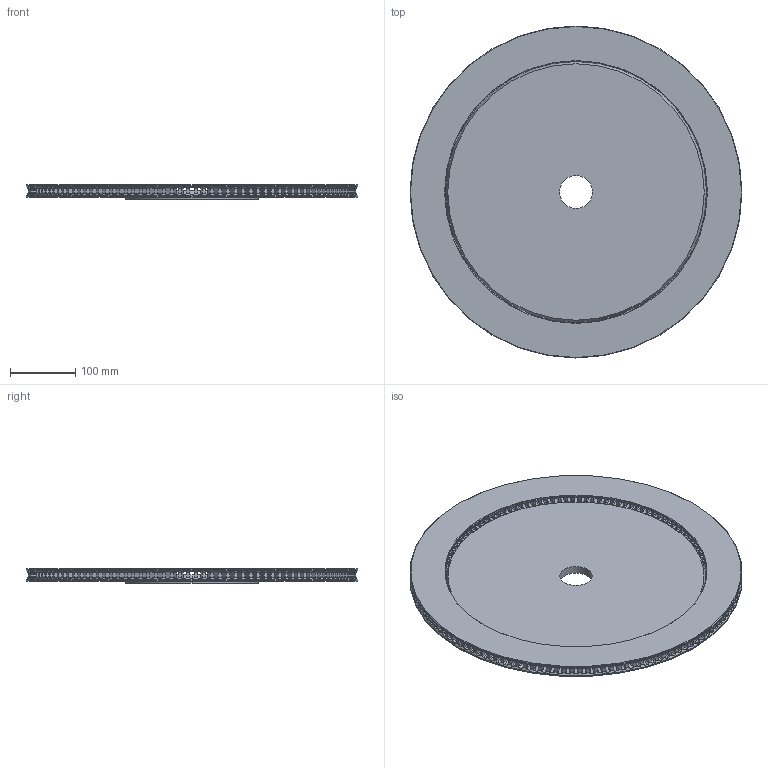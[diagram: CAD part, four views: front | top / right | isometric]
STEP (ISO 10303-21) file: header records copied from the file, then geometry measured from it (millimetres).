
FILE_DESCRIPTION (( 'STEP AP214' ), '1' );
FILE_NAME ('0.75-2-20.STEP', '2018-04-09T19:35:33', ( '' ), ( '' ), 'SwSTEP 2.0', 'SolidWorks 2017', '' );
FILE_SCHEMA (( 'AUTOMOTIVE_DESIGN' ));
Length unit declared in the file: inch
Products named in the file (1): 0.75-2-20
Bounding box: 510.54 x 510.54 x 22.23 mm (x, y, z)
Volume: 2190448.2 mm3; surface area: 654607.8 mm2
Topology: 1 solids, 1 shells, 1438 faces, 5056 edges, 3366 vertices
Faces by surface type: cylinder 778, plane 516, torus 128, cone 16
Entity records: 68434 total; most frequent: CARTESIAN_POINT 28029, ORIENTED_EDGE 10112, DIRECTION 6820, EDGE_CURVE 5056, VERTEX_POINT 3366, AXIS2_PLACEMENT_3D 2629, B_SPLINE_CURVE_WITH_KNOTS 2304, LINE 1562
